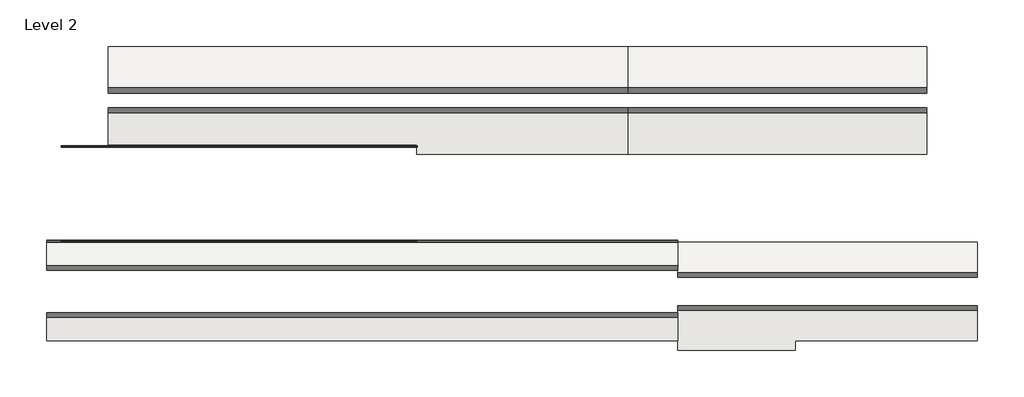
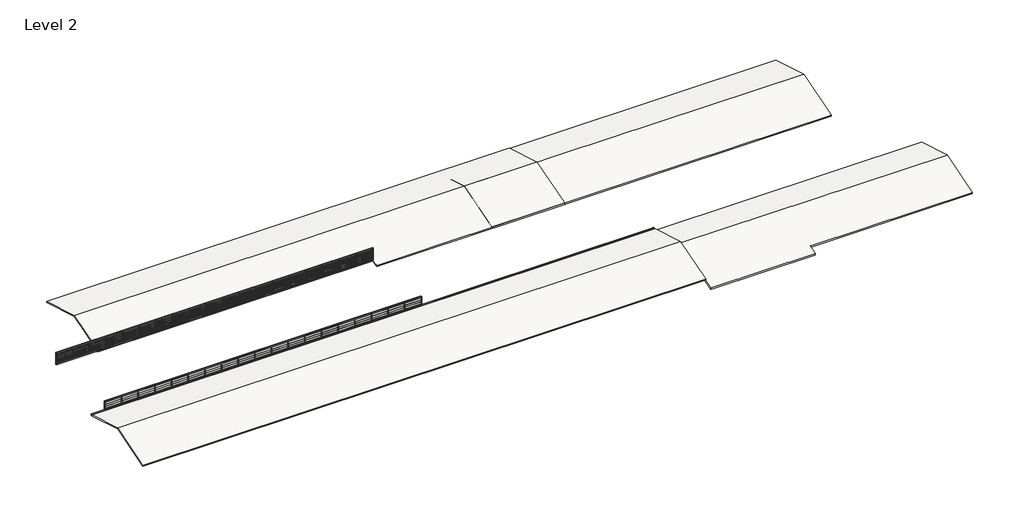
# One storey: 4 roofs, 2 furniture elements, 2 pipe segments.
"""IFC4 building model written with IfcOpenShell, lengths in millimetres."""

from ifc_helpers import new_model, si_unit, frame, origin, place, context, project, spatial, polyline, outline, extrude, faceted_brep, transform, mapped, element, save
from components import furniture_acc6336b, furniture_104a0ec1

model = new_model("IFC4")

# Units and contexts
model_context = context("Model", 3, world=origin())
ifc_project = project(units=[si_unit("LENGTHUNIT", "METRE", prefix="MILLI")], contexts=[model_context])

# Site, building, storey
site = spatial("IfcSite", under=ifc_project)
building = spatial("IfcBuilding", under=site)
storey = spatial("IfcBuildingStorey", under=building, Name="Level 2", Elevation=3000.0)

# Furniture
placement = place(None, origin())
furniture_shape = furniture_acc6336b(model_context)
element("IfcFurniture", 1, ObjectType="Mobiliário 27 : Mobiliário 25", at=placement, inside=storey, context=model_context, shape_type="MappedRepresentation", body=[
    mapped(furniture_shape, transform((0.0, 0.0, 0.0), x_axis=(1.0, 0.0, 0.0), y_axis=(0.0, 1.0, 0.0), z_axis=(0.0, 0.0, 1.0))),
])
furniture_2_shape = furniture_104a0ec1(model_context)
element("IfcFurniture", 2, ObjectType="Mobiliário 1 : Mobiliário 25", at=placement, inside=storey, context=model_context, shape_type="MappedRepresentation", body=[
    mapped(furniture_2_shape, transform((0.0, 0.0, 0.0), x_axis=(1.0, 0.0, 0.0), y_axis=(0.0, 1.0, 0.0), z_axis=(0.0, 0.0, 1.0))),
])

# Pipe segments
element("IfcPipeSegment", 3, ObjectType="Gutter", at=placement, inside=storey, context=model_context, shape_type="SweptSolid", body=[
    extrude(outline(polyline([(-20718.3222718, 3480.5915988), (-20718.3222718, 3610.5038314), (-20715.1472718, 3610.5038314), (-20715.1472718, 3483.7665988), (-20571.4845691, 3483.7665988), (-20533.3845691, 3588.2788314), (-20521.4972718, 3588.2788314), (-20521.4972718, 3594.6288314), (-20531.0222718, 3594.6288314), (-20531.0222718, 3597.8038314), (-20518.3222718, 3597.8038314), (-20518.3222718, 3585.1038314), (-20531.0222718, 3585.1038314), (-20569.1222718, 3480.5915988), (-20718.3222718, 3480.5915988)])), frame((-35580.2352635, 0.0, 0.0), z_axis=(1.0, 0.0, 0.0), x_axis=(0.0, 1.0, 0.0)), (0.0, 0.0, 1.0), 54360.0),
])
element("IfcPipeSegment", 4, ObjectType="Gutter", at=placement, inside=storey, context=model_context, shape_type="SweptSolid", body=[
    extrude(outline(polyline([(-12318.3222718, 3190.5915988), (-12467.5222718, 3190.5915988), (-12505.6222718, 3295.1038314), (-12518.3222718, 3295.1038314), (-12518.3222718, 3307.8038314), (-12505.6222718, 3307.8038314), (-12505.6222718, 3304.6288314), (-12515.1472718, 3304.6288314), (-12515.1472718, 3298.2788314), (-12503.2599745, 3298.2788314), (-12465.1599745, 3193.7665988), (-12321.4972718, 3193.7665988), (-12321.4972718, 3320.5038314), (-12318.3222718, 3320.5038314), (-12318.3222718, 3190.5915988)])), frame((-30260.2352635, 0.0, 0.0), z_axis=(1.0, 0.0, 0.0), x_axis=(0.0, 1.0, 0.0)), (0.0, 0.0, 1.0), 26550.0),
])

# Roofs
element("IfcRoof", 5, ObjectType="Generic - 125mm", at=placement, inside=storey, context=model_context, shape_type="SweptSolid", body=[
    extrude(outline(polyline([(-13118.3222718, 3130.5038314), (-8488.3222718, 4519.5038314), (-3858.3222718, 3130.5038314), (-3858.3222718, 3000.0), (-8488.3222718, 4389.0), (-13118.3222718, 3000.0), (-13118.3222718, 3130.5038314)])), frame((7419.7647365, 0.0, 0.0), z_axis=(1.0, 0.0, 0.0), x_axis=(0.0, 1.0, 0.0)), (0.0, 0.0, 1.0), 32780.0),
])
element("IfcRoof", 6, ObjectType="Generic - 125mm", at=placement, inside=storey, context=model_context, shape_type="SweptSolid", body=[
    extrude(outline(polyline([(-29178.3222718, 3610.5038314), (-24948.3222718, 4879.5038314), (-20718.3222718, 3610.5038314), (-20718.3222718, 3480.0), (-24948.3222718, 4749.0), (-29178.3222718, 3480.0), (-29178.3222718, 3610.5038314)])), frame((-35580.2352635, 0.0, 0.0), z_axis=(1.0, 0.0, 0.0), x_axis=(0.0, 1.0, 0.0)), (0.0, 0.0, 1.0), 54360.0),
])
element("IfcRoof", 7, ObjectType="Generic - 125mm", at=placement, inside=storey, context=model_context, shape_type="Brep", body=[
    faceted_brep([(44564.7647365, -24948.3222718, 4569.0), (44564.7647365, -29178.3222718, 3300.0), (28894.9439201, -29178.3222718, 3300.0), (28894.9439201, -30018.3222718, 3048.0), (18779.7647365, -30018.3222718, 3048.0), (18779.7647365, -24948.3222718, 4569.0), (44564.7647365, -20718.3222718, 3300.0), (18779.7647365, -20718.3222718, 3300.0), (44564.7647365, -29178.3222718, 3430.5038314), (44564.7647365, -24948.3222718, 4699.5038314), (18779.7647365, -24948.3222718, 4699.5038314), (18779.7647365, -30018.3222718, 3178.5038314), (28894.9439201, -30018.3222718, 3178.5038314), (28894.9439201, -29178.3222718, 3430.5038314), (44564.7647365, -20718.3222718, 3430.5038314), (18779.7647365, -20718.3222718, 3430.5038314)], [[[0, 1, 2, 3, 4, 5]], [[6, 0, 5, 7]], [[8, 9, 10, 11, 12, 13]], [[14, 15, 10, 9]], [[7, 15, 14, 6]], [[1, 8, 13, 2]], [[14, 9, 8, 1, 0, 6]], [[11, 10, 15, 7, 5, 4]], [[12, 11, 4, 3]], [[13, 12, 3, 2]]]),
])
element("IfcRoof", 8, ObjectType="Generic - 125mm", at=placement, inside=storey, context=model_context, shape_type="Brep", body=[
    faceted_brep([(-30260.2352635, -8488.3222718, 4389.0), (-30260.2352635, -3858.3222718, 3000.0), (14439.7647365, -3858.3222718, 3000.0), (14439.7647365, -8488.3222718, 4389.0), (-3710.2352635, -12318.3222718, 3240.0), (-30260.2352635, -12318.3222718, 3240.0), (14439.7647365, -13118.3222718, 3000.0), (-3710.2352635, -13118.3222718, 3000.0), (-30260.2352635, -3858.3222718, 3130.5038314), (-30260.2352635, -8488.3222718, 4519.5038314), (14439.7647365, -8488.3222718, 4519.5038314), (14439.7647365, -3858.3222718, 3130.5038314), (-30260.2352635, -12318.3222718, 3370.5038314), (-3710.2352635, -12318.3222718, 3370.5038314), (-3710.2352635, -13118.3222718, 3130.5038314), (14439.7647365, -13118.3222718, 3130.5038314)], [[[0, 1, 2, 3]], [[4, 5, 0, 3, 6, 7]], [[8, 9, 10, 11]], [[12, 13, 14, 15, 10, 9]], [[6, 15, 14, 7]], [[1, 8, 11, 2]], [[12, 9, 8, 1, 0, 5]], [[11, 10, 15, 6, 3, 2]], [[14, 13, 4, 7]], [[13, 12, 5, 4]]]),
])

save(model, "model.ifc")
